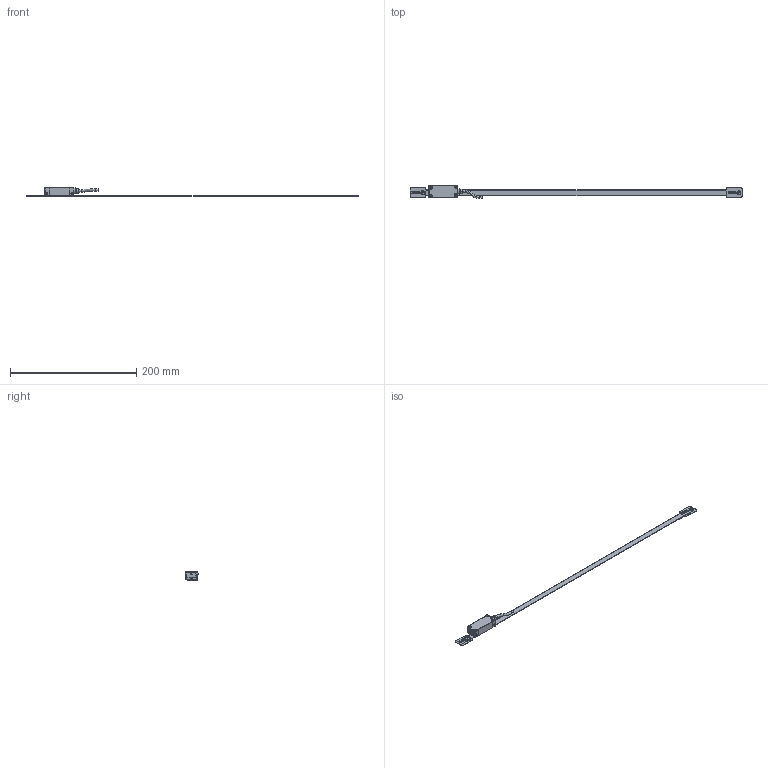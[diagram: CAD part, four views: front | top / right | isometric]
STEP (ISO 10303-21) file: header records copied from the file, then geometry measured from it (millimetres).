
FILE_DESCRIPTION(('Creo Elements/Direct Modeling STEP Export'),'2;1');
FILE_NAME('EXAA-420.stp','2017-01-11T16:41:18',(''),(''),'Creo Elements/Direct Modeling STEP processor for AP214 (Solid Model)','Creo Elements/Direct Modeling 18.1H 24-Oct-2015 (C) Parametric Technology GmbH','');
FILE_SCHEMA(('AUTOMOTIVE_DESIGN { 1 0 10303 214 1 1 1 1 }'));
Length unit declared in the file: millimetre
Products named in the file (7): CABEZA_EXPOSED; FLEJE_REGLA_EXPOSED_420; TOPE_FLEJE_PEGADO.1; TOPE_FLEJE_PEGADO
Assembly tree (4 placements, depth 2):
  CABEZA_EXPOSED
    CABEZA_EXPOSED
  FLEJE_REGLA_EXPOSED_420
    FLEJE_REGLA_EXPOSED_420
  TOPE_FLEJE_PEGADO
    TOPE_FLEJE_PEGADO.1
  TOPE_FLEJE_PEGADO.1
    TOPE_FLEJE_PEGADO.1
Bounding box: 526 x 20.7 x 13.1 mm (x, y, z)
Volume: 13358.5 mm3; surface area: 17057.2 mm2
Topology: 4 solids, 10 shells, 929 faces, 2589 edges, 1700 vertices
Faces by surface type: plane 741, cylinder 130, cone 46, torus 12
Entity records: 18785 total; most frequent: CARTESIAN_POINT 3390, ORIENTED_EDGE 3200, DIRECTION 2779, EDGE_CURVE 1600, VECTOR 1279, LINE 1279, VERTEX_POINT 1046, AXIS2_PLACEMENT_3D 750
